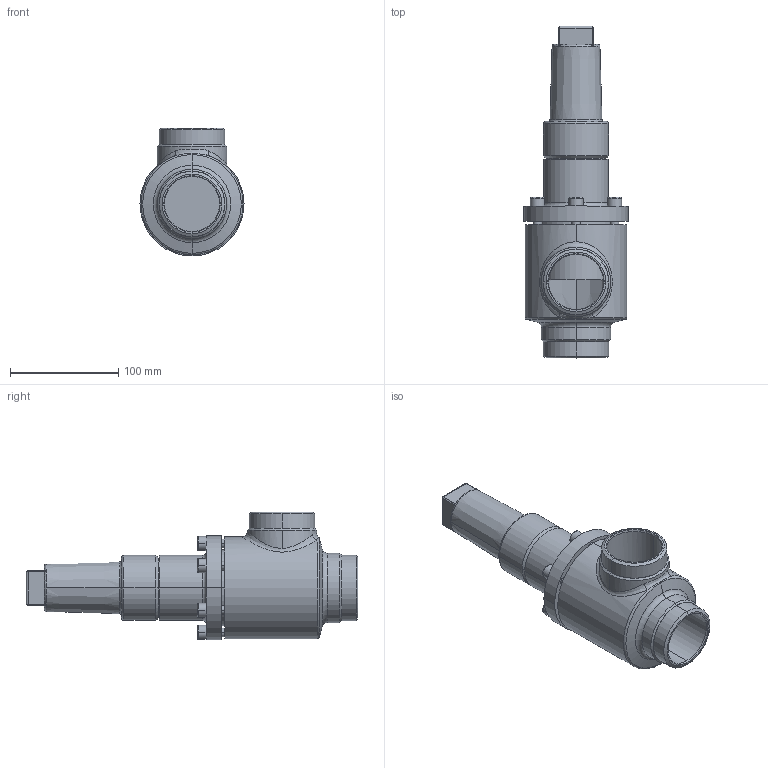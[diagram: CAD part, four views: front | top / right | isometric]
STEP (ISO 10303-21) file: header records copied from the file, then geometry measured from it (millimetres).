
FILE_DESCRIPTION (( 'STEP AP214' ), '1' );
FILE_NAME ('RVA29400D15-DN050_R1_PS40.STEP', '2006-04-28T05:40:32', ( 'Herr Grams' ), ( 'AWP GmbH' ), 'SwSTEP 2.0', 'SolidWorks 2002296', '' );
FILE_SCHEMA (( 'AUTOMOTIVE_DESIGN' ));
Length unit declared in the file: millimetre
Products named in the file (6): RVA29400D15-DN050_R1_PS40; RVA29300E15_Deck-Schr-DN40-50_Standard; Zylinderschraube-DIN912_M 8x 25; Deckel29300E15-DN40-50_Standard; Gehäuse16400-DN050_Standard; Kappe16402_DN040-65_Standard
Assembly tree (10 placements, depth 3):
  RVA29400D15-DN050_R1_PS40
    Gehäuse16400-DN050_Standard
    Kappe16402_DN040-65_Standard
    RVA29300E15_Deck-Schr-DN40-50_Standard
      Zylinderschraube-DIN912_M 8x 25  x6
      Deckel29300E15-DN40-50_Standard
Bounding box: 96 x 306 x 118 mm (x, y, z)
Volume: 903828.5 mm3; surface area: 158615.6 mm2
Topology: 9 solids, 9 shells, 242 faces, 531 edges, 334 vertices
Faces by surface type: plane 91, cylinder 86, cone 36, torus 27, bspline 2
Entity records: 14437 total; most frequent: CARTESIAN_POINT 10440, DIRECTION 807, ORIENTED_EDGE 682, AXIS2_PLACEMENT_3D 342, EDGE_CURVE 341, VERTEX_POINT 214, EDGE_LOOP 183, CIRCLE 178
